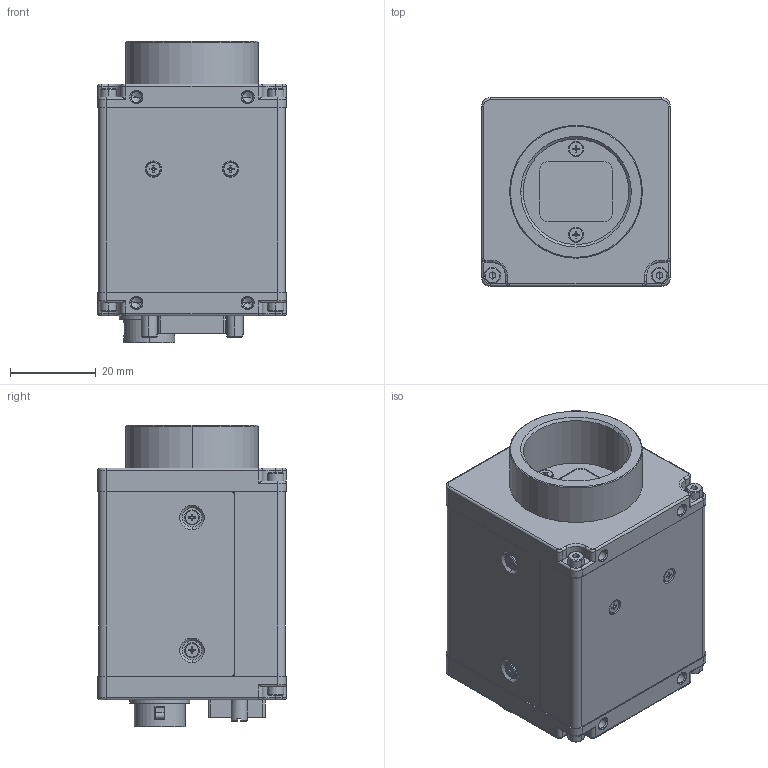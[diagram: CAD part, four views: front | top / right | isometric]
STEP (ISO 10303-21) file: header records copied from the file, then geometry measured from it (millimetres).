
FILE_DESCRIPTION((''),'2;1');
FILE_NAME('SW-2005TL-5GE-NP-_MOCK','2026-02-25T15:22:51',('aso'),(''),'CREO PARAMETRIC BY PTC INC, 2025323','CREO PARAMETRIC BY PTC INC, 2025323','');
FILE_SCHEMA(('AUTOMOTIVE_DESIGN { 1 0 10303 214 1 1 1 1 }'));
Length unit declared in the file: millimetre
Products named in the file (1): SW-2005TL-5GE-NP-_MOCK
Bounding box: 44 x 44 x 70.3 mm (x, y, z)
Volume: 103381.2 mm3; surface area: 18737.2 mm2
Topology: 2 solids, 13 shells, 855 faces, 2255 edges, 1433 vertices
Faces by surface type: plane 408, cylinder 276, cone 99, torus 40, sphere 24, bspline 8
Entity records: 33900 total; most frequent: CARTESIAN_POINT 6138, DIRECTION 4433, ORIENTED_EDGE 4372, EDGE_CURVE 2203, AXIS2_PLACEMENT_3D 1636, VERTEX_POINT 1433, PRESENTATION_STYLE_ASSIGNMENT 1209, VECTOR 1161
